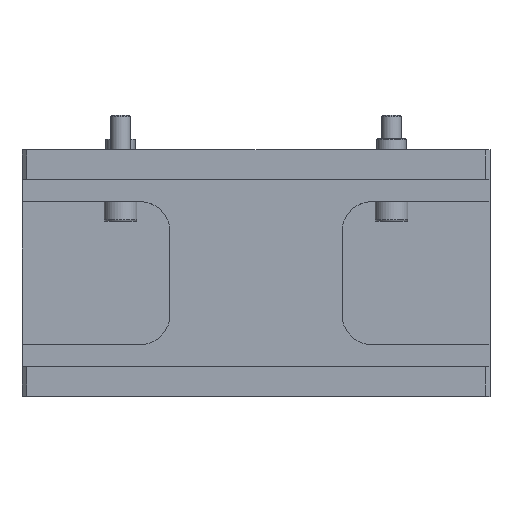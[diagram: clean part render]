
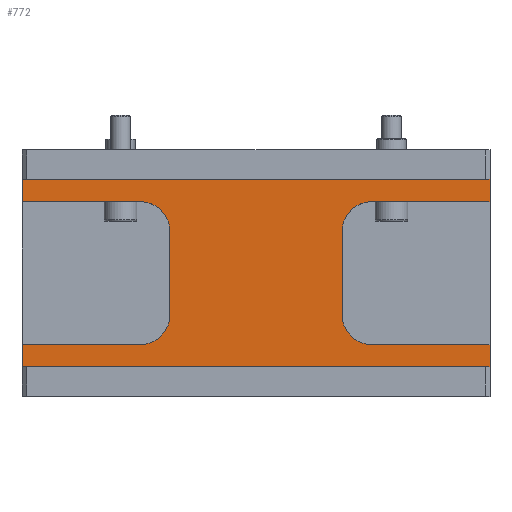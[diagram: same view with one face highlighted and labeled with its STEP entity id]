
A CAD part, top view. The second image highlights one B-rep face of the part: STEP entity #772.
In plain terms, the highlighted planar face has unit normal (0, 0, 1).
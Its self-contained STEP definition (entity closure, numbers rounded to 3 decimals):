
#2 = VECTOR ( 'NONE', #3232, 1000. ) ;
#3 = LINE ( 'NONE', #1042, #2286 ) ;
#35 = DIRECTION ( 'NONE',  ( 0., 1., 0. ) ) ;
#37 = VECTOR ( 'NONE', #569, 1000. ) ;
#65 = EDGE_CURVE ( 'NONE', #247, #2757, #1615, .T. ) ;
#129 = CARTESIAN_POINT ( 'NONE',  ( 95., -21., 34. ) ) ;
#151 = EDGE_CURVE ( 'NONE', #993, #1600, #329, .T. ) ;
#161 = DIRECTION ( 'NONE',  ( -1., 0., 0. ) ) ;
#179 = CARTESIAN_POINT ( 'NONE',  ( 47., -79., 34. ) ) ;
#241 = CARTESIAN_POINT ( 'NONE',  ( 47., -21., 34. ) ) ;
#247 = VERTEX_POINT ( 'NONE', #2396 ) ;
#273 = AXIS2_PLACEMENT_3D ( 'NONE', #748, #2341, #3357 ) ;
#290 = ORIENTED_EDGE ( 'NONE', *, *, #2768, .F. ) ;
#291 = CARTESIAN_POINT ( 'NONE',  ( 95., -12., 34. ) ) ;
#294 = EDGE_CURVE ( 'NONE', #2116, #1114, #1862, .T. ) ;
#329 = LINE ( 'NONE', #3206, #2585 ) ;
#343 = EDGE_CURVE ( 'NONE', #2116, #2052, #2461, .T. ) ;
#346 = CARTESIAN_POINT ( 'NONE',  ( 95., -88., 34. ) ) ;
#373 = DIRECTION ( 'NONE',  ( 0., 0., -1. ) ) ;
#382 = ORIENTED_EDGE ( 'NONE', *, *, #2705, .T. ) ;
#399 = ORIENTED_EDGE ( 'NONE', *, *, #414, .T. ) ;
#401 = ORIENTED_EDGE ( 'NONE', *, *, #2336, .T. ) ;
#414 = EDGE_CURVE ( 'NONE', #2757, #448, #3021, .T. ) ;
#422 = CARTESIAN_POINT ( 'NONE',  ( 95., -12., 34. ) ) ;
#448 = VERTEX_POINT ( 'NONE', #901 ) ;
#546 = VECTOR ( 'NONE', #3165, 1000. ) ;
#569 = DIRECTION ( 'NONE',  ( 0., 1., 0. ) ) ;
#578 = EDGE_CURVE ( 'NONE', #1778, #2958, #2292, .T. ) ;
#589 = VERTEX_POINT ( 'NONE', #2835 ) ;
#624 = DIRECTION ( 'NONE',  ( 0., 1., 0. ) ) ;
#626 = ORIENTED_EDGE ( 'NONE', *, *, #1626, .T. ) ;
#627 = CARTESIAN_POINT ( 'NONE',  ( -95., -88., 34. ) ) ;
#632 = CARTESIAN_POINT ( 'NONE',  ( 95., -21., 34. ) ) ;
#674 = EDGE_CURVE ( 'NONE', #1966, #1353, #974, .T. ) ;
#717 = ORIENTED_EDGE ( 'NONE', *, *, #2880, .F. ) ;
#733 = CARTESIAN_POINT ( 'NONE',  ( 95., -79., 34. ) ) ;
#748 = CARTESIAN_POINT ( 'NONE',  ( -47., -67., 34. ) ) ;
#772 = ADVANCED_FACE ( 'NONE', ( #2701 ), #1923, .F. ) ;
#801 = ORIENTED_EDGE ( 'NONE', *, *, #294, .F. ) ;
#879 = CARTESIAN_POINT ( 'NONE',  ( -95., -21., 34. ) ) ;
#901 = CARTESIAN_POINT ( 'NONE',  ( -35., -67., 34. ) ) ;
#946 = CARTESIAN_POINT ( 'NONE',  ( -95., -79., 34. ) ) ;
#974 = CIRCLE ( 'NONE', #2710, 12. ) ;
#993 = VERTEX_POINT ( 'NONE', #879 ) ;
#1015 = VECTOR ( 'NONE', #1705, 1000. ) ;
#1031 = EDGE_CURVE ( 'NONE', #3305, #1353, #2681, .T. ) ;
#1042 = CARTESIAN_POINT ( 'NONE',  ( 95., -12., 34. ) ) ;
#1114 = VERTEX_POINT ( 'NONE', #946 ) ;
#1115 = ORIENTED_EDGE ( 'NONE', *, *, #1975, .F. ) ;
#1131 = ORIENTED_EDGE ( 'NONE', *, *, #1426, .T. ) ;
#1135 = LINE ( 'NONE', #2754, #2616 ) ;
#1147 = CIRCLE ( 'NONE', #273, 12. ) ;
#1173 = CARTESIAN_POINT ( 'NONE',  ( -95., -88., 34. ) ) ;
#1238 = CARTESIAN_POINT ( 'NONE',  ( -95., -12., 34. ) ) ;
#1283 = EDGE_CURVE ( 'NONE', #1778, #589, #2607, .T. ) ;
#1353 = VERTEX_POINT ( 'NONE', #241 ) ;
#1367 = ORIENTED_EDGE ( 'NONE', *, *, #151, .F. ) ;
#1426 = EDGE_CURVE ( 'NONE', #3305, #1816, #1957, .T. ) ;
#1429 = CARTESIAN_POINT ( 'NONE',  ( 95., -21., 34. ) ) ;
#1541 = ORIENTED_EDGE ( 'NONE', *, *, #343, .T. ) ;
#1569 = DIRECTION ( 'NONE',  ( 0., 0., -1. ) ) ;
#1599 = DIRECTION ( 'NONE',  ( 0., 0., -1. ) ) ;
#1600 = VERTEX_POINT ( 'NONE', #1238 ) ;
#1615 = CIRCLE ( 'NONE', #2702, 12. ) ;
#1626 = EDGE_CURVE ( 'NONE', #2052, #2958, #3, .T. ) ;
#1679 = VECTOR ( 'NONE', #3017, 1000. ) ;
#1698 = DIRECTION ( 'NONE',  ( 1., 0., 0. ) ) ;
#1705 = DIRECTION ( 'NONE',  ( 1., 0., 0. ) ) ;
#1735 = CARTESIAN_POINT ( 'NONE',  ( -35., -79., 34. ) ) ;
#1778 = VERTEX_POINT ( 'NONE', #179 ) ;
#1785 = CARTESIAN_POINT ( 'NONE',  ( 35., -33., 34. ) ) ;
#1816 = VERTEX_POINT ( 'NONE', #291 ) ;
#1843 = CARTESIAN_POINT ( 'NONE',  ( 47., -67., 34. ) ) ;
#1862 = LINE ( 'NONE', #2910, #37 ) ;
#1919 = LINE ( 'NONE', #129, #2783 ) ;
#1923 = PLANE ( 'NONE',  #2766 ) ;
#1957 = LINE ( 'NONE', #422, #1679 ) ;
#1966 = VERTEX_POINT ( 'NONE', #1785 ) ;
#1975 = EDGE_CURVE ( 'NONE', #1600, #1816, #2069, .T. ) ;
#2038 = DIRECTION ( 'NONE',  ( 0., 0., -1. ) ) ;
#2052 = VERTEX_POINT ( 'NONE', #346 ) ;
#2069 = LINE ( 'NONE', #2094, #546 ) ;
#2084 = DIRECTION ( 'NONE',  ( 0., 1., 0. ) ) ;
#2094 = CARTESIAN_POINT ( 'NONE',  ( -95., -12., 34. ) ) ;
#2116 = VERTEX_POINT ( 'NONE', #627 ) ;
#2137 = ORIENTED_EDGE ( 'NONE', *, *, #674, .T. ) ;
#2220 = CARTESIAN_POINT ( 'NONE',  ( -47., -79., 34. ) ) ;
#2240 = CARTESIAN_POINT ( 'NONE',  ( 95., -79., 34. ) ) ;
#2286 = VECTOR ( 'NONE', #2084, 1000. ) ;
#2292 = LINE ( 'NONE', #733, #2944 ) ;
#2307 = ORIENTED_EDGE ( 'NONE', *, *, #65, .T. ) ;
#2336 = EDGE_CURVE ( 'NONE', #448, #2934, #1147, .T. ) ;
#2341 = DIRECTION ( 'NONE',  ( 0., 0., -1. ) ) ;
#2365 = CARTESIAN_POINT ( 'NONE',  ( -47., -33., 34. ) ) ;
#2396 = CARTESIAN_POINT ( 'NONE',  ( -47., -21., 34. ) ) ;
#2398 = EDGE_LOOP ( 'NONE', ( #2137, #2886, #1131, #1115, #1367, #290, #2307, #399, #401, #717, #801, #1541, #626, #2828, #3361, #382 ) ) ;
#2461 = LINE ( 'NONE', #1173, #1015 ) ;
#2467 = CARTESIAN_POINT ( 'NONE',  ( -35., -33., 34. ) ) ;
#2585 = VECTOR ( 'NONE', #2922, 1000. ) ;
#2607 = CIRCLE ( 'NONE', #2656, 12. ) ;
#2616 = VECTOR ( 'NONE', #1698, 1000. ) ;
#2618 = CARTESIAN_POINT ( 'NONE',  ( 35., -79., 34. ) ) ;
#2656 = AXIS2_PLACEMENT_3D ( 'NONE', #1843, #1569, #2874 ) ;
#2671 = CARTESIAN_POINT ( 'NONE',  ( 47., -33., 34. ) ) ;
#2681 = LINE ( 'NONE', #632, #2 ) ;
#2701 = FACE_OUTER_BOUND ( 'NONE', #2398, .T. ) ;
#2702 = AXIS2_PLACEMENT_3D ( 'NONE', #2365, #2038, #2817 ) ;
#2705 = EDGE_CURVE ( 'NONE', #589, #1966, #2900, .T. ) ;
#2710 = AXIS2_PLACEMENT_3D ( 'NONE', #2671, #1599, #3186 ) ;
#2727 = VECTOR ( 'NONE', #35, 1000. ) ;
#2754 = CARTESIAN_POINT ( 'NONE',  ( 95., -79., 34. ) ) ;
#2757 = VERTEX_POINT ( 'NONE', #2467 ) ;
#2766 = AXIS2_PLACEMENT_3D ( 'NONE', #2965, #373, #624 ) ;
#2768 = EDGE_CURVE ( 'NONE', #247, #993, #1919, .T. ) ;
#2783 = VECTOR ( 'NONE', #161, 1000. ) ;
#2817 = DIRECTION ( 'NONE',  ( 0., 1., 0. ) ) ;
#2828 = ORIENTED_EDGE ( 'NONE', *, *, #578, .F. ) ;
#2835 = CARTESIAN_POINT ( 'NONE',  ( 35., -67., 34. ) ) ;
#2874 = DIRECTION ( 'NONE',  ( 0., 1., 0. ) ) ;
#2880 = EDGE_CURVE ( 'NONE', #1114, #2934, #1135, .T. ) ;
#2886 = ORIENTED_EDGE ( 'NONE', *, *, #1031, .F. ) ;
#2900 = LINE ( 'NONE', #2618, #2727 ) ;
#2910 = CARTESIAN_POINT ( 'NONE',  ( -95., -12., 34. ) ) ;
#2922 = DIRECTION ( 'NONE',  ( 0., 1., 0. ) ) ;
#2934 = VERTEX_POINT ( 'NONE', #2220 ) ;
#2944 = VECTOR ( 'NONE', #3088, 1000. ) ;
#2958 = VERTEX_POINT ( 'NONE', #2240 ) ;
#2965 = CARTESIAN_POINT ( 'NONE',  ( 95., -79., 34. ) ) ;
#3017 = DIRECTION ( 'NONE',  ( 0., 1., 0. ) ) ;
#3021 = LINE ( 'NONE', #1735, #3028 ) ;
#3028 = VECTOR ( 'NONE', #3306, 1000. ) ;
#3088 = DIRECTION ( 'NONE',  ( 1., 0., 0. ) ) ;
#3165 = DIRECTION ( 'NONE',  ( 1., 0., 0. ) ) ;
#3186 = DIRECTION ( 'NONE',  ( 0., 1., 0. ) ) ;
#3206 = CARTESIAN_POINT ( 'NONE',  ( -95., -12., 34. ) ) ;
#3232 = DIRECTION ( 'NONE',  ( -1., 0., 0. ) ) ;
#3305 = VERTEX_POINT ( 'NONE', #1429 ) ;
#3306 = DIRECTION ( 'NONE',  ( 0., -1., 0. ) ) ;
#3357 = DIRECTION ( 'NONE',  ( 0., 1., 0. ) ) ;
#3361 = ORIENTED_EDGE ( 'NONE', *, *, #1283, .T. ) ;
